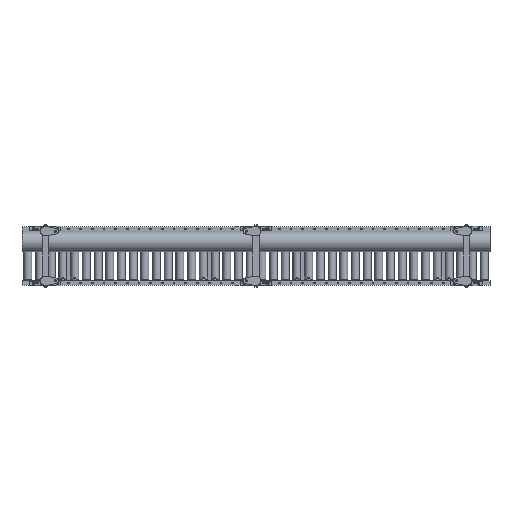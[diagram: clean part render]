
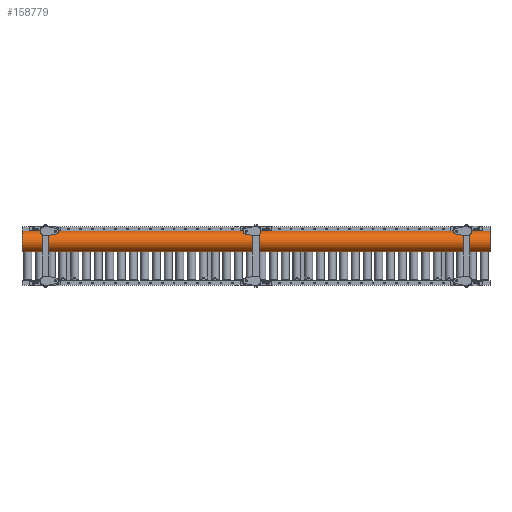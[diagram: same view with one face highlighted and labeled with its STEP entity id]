
A CAD part, front view. The second image highlights one B-rep face of the part: STEP entity #158779.
In plain terms, the highlighted cylindrical face has radius 66.89 mm (diameter 133.78 mm), a partial arc.
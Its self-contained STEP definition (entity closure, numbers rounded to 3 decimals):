
#15358 = CARTESIAN_POINT ( 'NONE',  ( -3000., -150., 92.61 ) ) ;
#19472 = AXIS2_PLACEMENT_3D ( 'NONE', #172943, #128528, #114370 ) ;
#24378 = CARTESIAN_POINT ( 'NONE',  ( -3177.652, -150., 25.72 ) ) ;
#25104 = AXIS2_PLACEMENT_3D ( 'NONE', #15358, #88973, #45726 ) ;
#31235 = CARTESIAN_POINT ( 'NONE',  ( -3000., -150., 159.5 ) ) ;
#31319 = CARTESIAN_POINT ( 'NONE',  ( -3177.652, -150., 92.61 ) ) ;
#45726 = DIRECTION ( 'NONE',  ( 0., 0., 1. ) ) ;
#62331 = DIRECTION ( 'NONE',  ( 1., 0., 0. ) ) ;
#63483 = CIRCLE ( 'NONE', #19472, 66.89 ) ;
#75015 = LINE ( 'NONE', #160839, #183227 ) ;
#75517 = VERTEX_POINT ( 'NONE', #171843 ) ;
#76596 = DIRECTION ( 'NONE',  ( 0., 0., -1. ) ) ;
#77887 = EDGE_CURVE ( 'NONE', #108021, #75517, #63483, .T. ) ;
#80416 = EDGE_CURVE ( 'NONE', #142006, #75517, #94160, .T. ) ;
#87899 = AXIS2_PLACEMENT_3D ( 'NONE', #31319, #92648, #76596 ) ;
#88973 = DIRECTION ( 'NONE',  ( 1., 0., 0. ) ) ;
#89519 = VERTEX_POINT ( 'NONE', #31235 ) ;
#92648 = DIRECTION ( 'NONE',  ( 1., 0., 0. ) ) ;
#94160 = LINE ( 'NONE', #24378, #114843 ) ;
#95547 = ORIENTED_EDGE ( 'NONE', *, *, #112428, .T. ) ;
#95649 = CIRCLE ( 'NONE', #25104, 66.89 ) ;
#99155 = CARTESIAN_POINT ( 'NONE',  ( 0., -150., 159.5 ) ) ;
#108021 = VERTEX_POINT ( 'NONE', #99155 ) ;
#112428 = EDGE_CURVE ( 'NONE', #89519, #142006, #95649, .T. ) ;
#114370 = DIRECTION ( 'NONE',  ( 0., 0., 1. ) ) ;
#114843 = VECTOR ( 'NONE', #143661, 1000. ) ;
#117348 = FACE_OUTER_BOUND ( 'NONE', #177114, .T. ) ;
#128528 = DIRECTION ( 'NONE',  ( 1., 0., 0. ) ) ;
#131223 = CYLINDRICAL_SURFACE ( 'NONE', #87899, 66.89 ) ;
#142006 = VERTEX_POINT ( 'NONE', #165439 ) ;
#143661 = DIRECTION ( 'NONE',  ( 1., 0., 0. ) ) ;
#158779 = ADVANCED_FACE ( 'NONE', ( #117348 ), #131223, .T. ) ;
#160839 = CARTESIAN_POINT ( 'NONE',  ( -3177.652, -150., 159.5 ) ) ;
#163334 = ORIENTED_EDGE ( 'NONE', *, *, #77887, .F. ) ;
#165439 = CARTESIAN_POINT ( 'NONE',  ( -3000., -150., 25.72 ) ) ;
#168211 = ORIENTED_EDGE ( 'NONE', *, *, #80416, .T. ) ;
#171843 = CARTESIAN_POINT ( 'NONE',  ( 0., -150., 25.72 ) ) ;
#172943 = CARTESIAN_POINT ( 'NONE',  ( 0., -150., 92.61 ) ) ;
#177114 = EDGE_LOOP ( 'NONE', ( #178551, #95547, #168211, #163334 ) ) ;
#178551 = ORIENTED_EDGE ( 'NONE', *, *, #182528, .F. ) ;
#182528 = EDGE_CURVE ( 'NONE', #89519, #108021, #75015, .T. ) ;
#183227 = VECTOR ( 'NONE', #62331, 1000. ) ;
